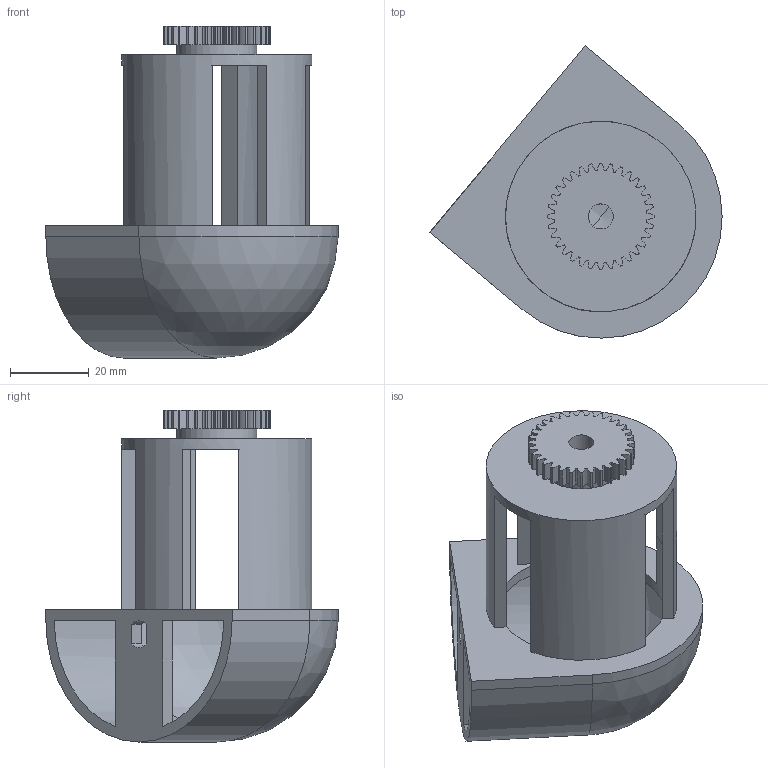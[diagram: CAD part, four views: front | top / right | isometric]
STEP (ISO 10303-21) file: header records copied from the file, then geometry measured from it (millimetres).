
FILE_DESCRIPTION((''),'2;1');
FILE_NAME('C:\Documents and Settings\Powderly\Desktop\UpperArmShoulderRotationalDrum.stp','2005-08-09T02:21:33',('Powderly'),(''),'Autodesk Inventor 10','Autodesk Inventor 10','');
FILE_SCHEMA(('AUTOMOTIVE_DESIGN { 1 0 10303 214 1 1 1 1 }'));
Length unit declared in the file: inch
Products named in the file (1): 32, 0
Bounding box: 74.02 x 74.02 x 84.07 mm (x, y, z)
Volume: 39480.7 mm3; surface area: 29795.4 mm2
Topology: 1 solids, 1 shells, 165 faces, 501 edges, 332 vertices
Faces by surface type: cylinder 139, plane 23, sphere 2, bspline 1
Full cylindrical faces by diameter (mm): 6.604 x1, 20.32 x1, 48.26 x1
Entity records: 5803 total; most frequent: DIRECTION 1121, CARTESIAN_POINT 1006, ORIENTED_EDGE 986, EDGE_CURVE 493, AXIS2_PLACEMENT_3D 463, VERTEX_POINT 330, CIRCLE 298, VECTOR 195
